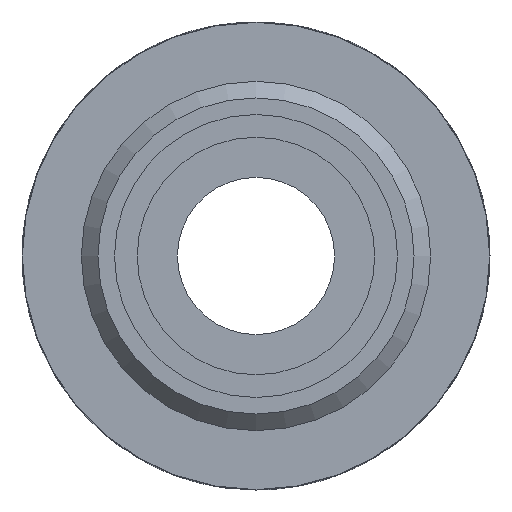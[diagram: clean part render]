
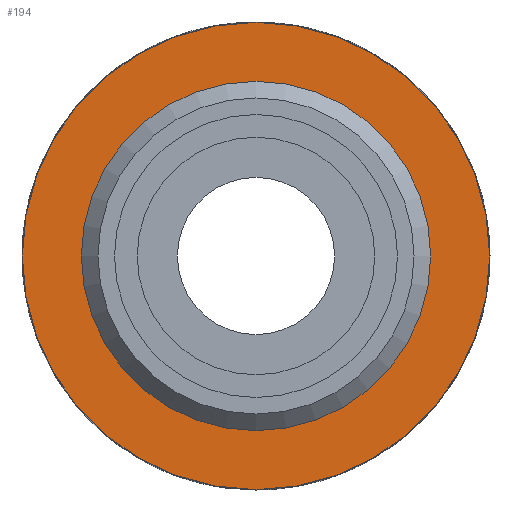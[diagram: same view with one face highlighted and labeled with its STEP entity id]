
A CAD part, left-side view. The second image highlights one B-rep face of the part: STEP entity #194.
In plain terms, the highlighted planar face has unit normal (-1, 0, 0).
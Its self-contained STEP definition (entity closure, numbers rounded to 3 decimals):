
#194 = ADVANCED_FACE( '', ( #416, #417 ), #418, .F. );
#416 = FACE_OUTER_BOUND( '', #665, .T. );
#417 = FACE_BOUND( '', #666, .T. );
#418 = PLANE( '', #667 );
#665 = EDGE_LOOP( '', ( #1092 ) );
#666 = EDGE_LOOP( '', ( #1093 ) );
#667 = AXIS2_PLACEMENT_3D( '', #1094, #1095, #1096 );
#1092 = ORIENTED_EDGE( '', *, *, #1239, .F. );
#1093 = ORIENTED_EDGE( '', *, *, #1223, .T. );
#1094 = CARTESIAN_POINT( '', ( 8., 10., 0. ) );
#1095 = DIRECTION( '', ( 1., 0., 0. ) );
#1096 = DIRECTION( '', ( 0., 0., -1. ) );
#1223 = EDGE_CURVE( '', #1452, #1452, #1453, .T. );
#1239 = EDGE_CURVE( '', #1473, #1473, #1474, .T. );
#1452 = VERTEX_POINT( '', #1985 );
#1453 = CIRCLE( '', #1986, 10. );
#1473 = VERTEX_POINT( '', #2018 );
#1474 = CIRCLE( '', #2019, 13.38 );
#1985 = CARTESIAN_POINT( '', ( 8., 0., -10. ) );
#1986 = AXIS2_PLACEMENT_3D( '', #2205, #2206, #2207 );
#2018 = CARTESIAN_POINT( '', ( 8., 0., -13.38 ) );
#2019 = AXIS2_PLACEMENT_3D( '', #2221, #2222, #2223 );
#2205 = CARTESIAN_POINT( '', ( 8., 0., 0. ) );
#2206 = DIRECTION( '', ( 1., 0., 0. ) );
#2207 = DIRECTION( '', ( 0., 0., -1. ) );
#2221 = CARTESIAN_POINT( '', ( 8., 0., 0. ) );
#2222 = DIRECTION( '', ( 1., 0., 0. ) );
#2223 = DIRECTION( '', ( 0., 0., -1. ) );
